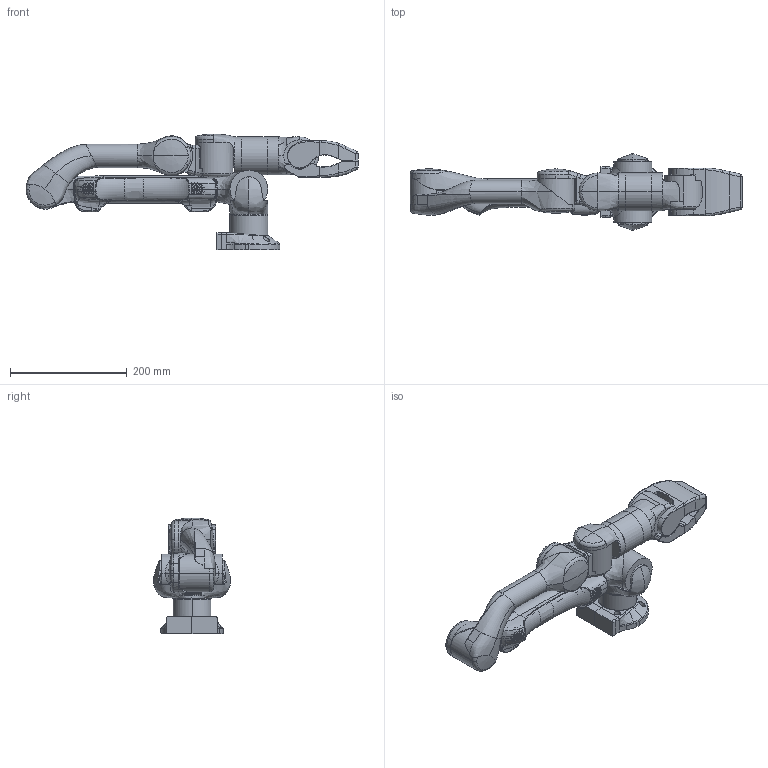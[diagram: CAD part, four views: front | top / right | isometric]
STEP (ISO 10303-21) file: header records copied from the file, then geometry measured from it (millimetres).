
FILE_DESCRIPTION (( 'STEP AP203' ), '1' );
FILE_NAME ('UArm-V3.6-01-simplified-with gripper-20220621.STEP', '2022-06-21T09:39:01', ( 'u' ), ( '' ), 'SwSTEP 2.0', 'SolidWorks 2018', '' );
FILE_SCHEMA (( 'CONFIG_CONTROL_DESIGN' ));
Length unit declared in the file: millimetre
Products named in the file (12): UArm-V3.6-01-simplified-with gripper.STEP; UArm-V3.6-3-01-Graipper-Fixed jaw assembly-simplified.STEP; UArm-20220106-07B-01散热外壳(简化); UArm-V3.6-01-Wrist-front-simplified.STEP; UArm-V3.6-3-01-Gripper-Movable finger-simplified.STEP; UArm-V3.6-01-Wrist-back-simplified.STEP; UArm-V3.6-01-Shoulder-simplified.STEP; UArm-V3.6-4-Base-simplified.STEP; UArm-V3.6-01-End joint-simplified.STEP; UArm-V3.6-01-Secondary arm-simplified.STEP; UArm-V3.6-01-simplified-with gripper-20220621; UArm-V3.6-01-Main arm-simplified.STEP
Assembly tree (11 placements, depth 3):
  UArm-V3.6-01-simplified-with gripper-20220621
    UArm-V3.6-01-simplified-with gripper.STEP
      UArm-V3.6-4-Base-simplified.STEP
      UArm-V3.6-01-Shoulder-simplified.STEP
      UArm-V3.6-01-Main arm-simplified.STEP
      UArm-V3.6-01-Secondary arm-simplified.STEP
      UArm-V3.6-01-Wrist-back-simplified.STEP
      UArm-V3.6-01-Wrist-front-simplified.STEP
      UArm-V3.6-01-End joint-simplified.STEP
      UArm-V3.6-3-01-Graipper-Fixed jaw assembly-simplified.STEP
      UArm-V3.6-3-01-Gripper-Movable finger-simplified.STEP
    UArm-20220106-07B-01散热外壳(简化)
Bounding box: 569.7 x 131.78 x 199 mm (x, y, z)
Volume: 2320162.9 mm3; surface area: 424945.2 mm2
Topology: 9 solids, 10 shells, 1838 faces, 5363 edges, 3400 vertices
Faces by surface type: bspline 775, plane 723, cylinder 299, torus 35, sphere 6
Entity records: 279145 total; most frequent: CARTESIAN_POINT 239479, ORIENTED_EDGE 10689, EDGE_CURVE 5346, B_SPLINE_CURVE_WITH_KNOTS 4026, DIRECTION 3772, VERTEX_POINT 3399, EDGE_LOOP 1996, FACE_OUTER_BOUND 1838
